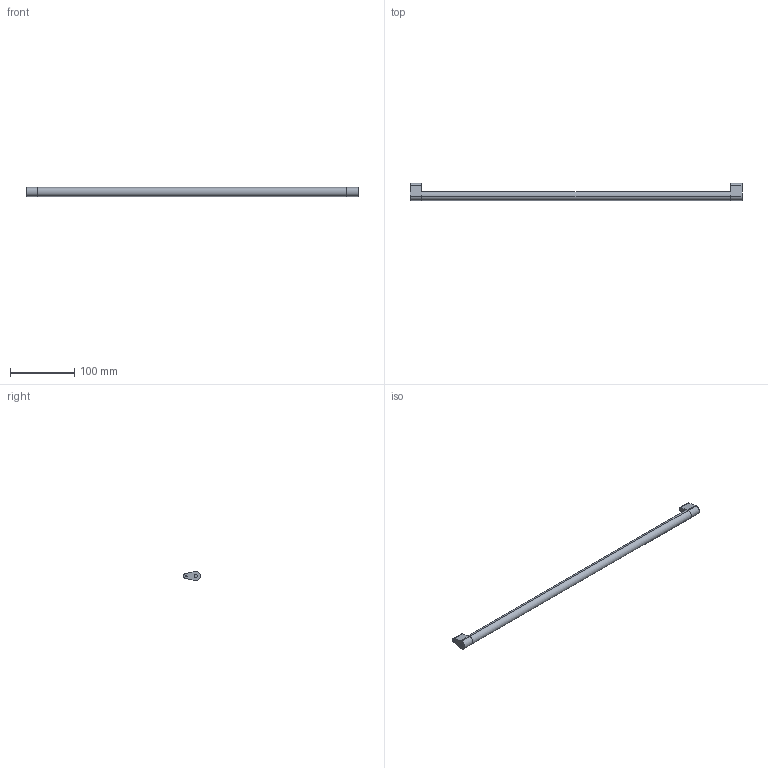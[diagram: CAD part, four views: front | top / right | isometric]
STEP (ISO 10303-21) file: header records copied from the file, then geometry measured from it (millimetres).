
FILE_DESCRIPTION (( 'STEP AP214' ), '1' );
FILE_NAME ('_Synchronisationseinheit Nova Pro KAB600_S16.step', '2010-07-08T13:58:29', ( 'grass' ), ( '' ), 'SwSTEP 2.0', 'SolidWorks 2010', '' );
FILE_SCHEMA (( 'AUTOMOTIVE_DESIGN' ));
Length unit declared in the file: millimetre
Products named in the file (1): _Synchronisationseinheit Nova Pro KAB600_S16
Bounding box: 515 x 26.5 x 14 mm (x, y, z)
Volume: 82964.9 mm3; surface area: 25497.9 mm2
Topology: 3 solids, 3 shells, 36 faces, 78 edges, 52 vertices
Faces by surface type: cylinder 18, plane 18
Entity records: 1050 total; most frequent: DIRECTION 188, CARTESIAN_POINT 167, ORIENTED_EDGE 156, EDGE_CURVE 78, AXIS2_PLACEMENT_3D 73, VERTEX_POINT 52, VECTOR 42, LINE 42
